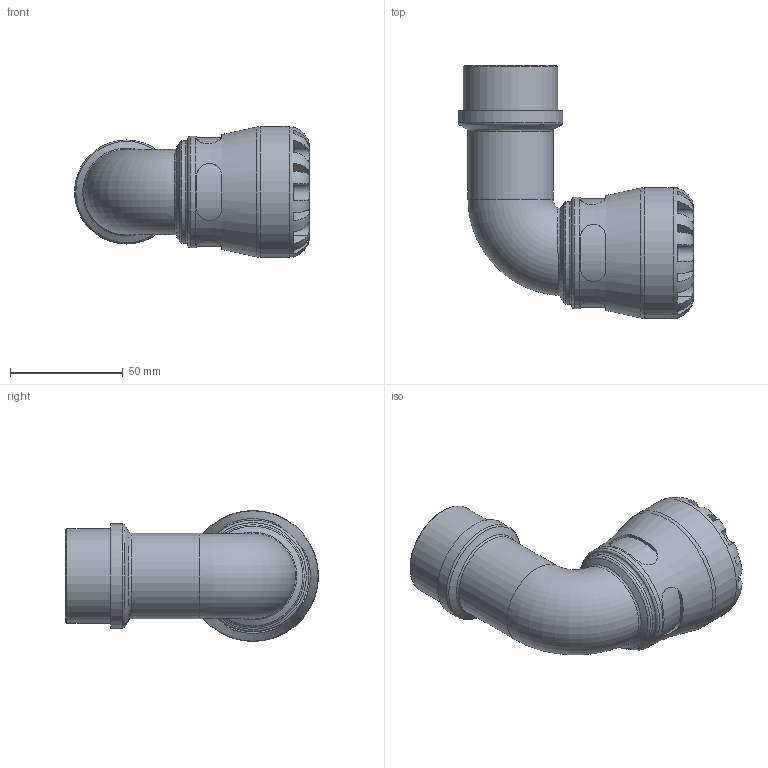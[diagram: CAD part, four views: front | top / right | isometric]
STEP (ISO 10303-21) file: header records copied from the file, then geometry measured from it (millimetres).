
FILE_DESCRIPTION(/* description */ ('PLASSON 90° ELBOW WITH MALE INTEGRAL BRASS 32X1.1/4" SERIES 1'),/* implementation_level */ '2;1');
FILE_NAME(/* name */ 'C:\Dropbox\KIMPROJECTS-Inventor\99-16-3568-Processing\1077\107700032013_197700032013.ipt.stp',/* time_stamp */ '2017-01-22T11:54:28+02:00',/* author */ ('KIM'),/* organization */ (''),/* preprocessor_version */ 'ST-DEVELOPER v15.6',/* originating_system */ 'Autodesk Inventor 2015',/* authorisation */ '');
FILE_SCHEMA (('AUTOMOTIVE_DESIGN { 1 0 10303 214 3 1 1 }'));
Length unit declared in the file: millimetre
Products named in the file (1): 107700032013_197700032013
Bounding box: 104.05 x 112 x 58 mm (x, y, z)
Volume: 130859.2 mm3; surface area: 40895.2 mm2
Topology: 1 solids, 1 shells, 112 faces, 275 edges, 170 vertices
Faces by surface type: plane 60, cylinder 37, torus 9, cone 3, bspline 3
Full cylindrical faces by diameter (mm): 29.337 x2, 32 x1, 37.719 x1, 41.91 x1, 45.24 x1, 46.101 x1, 49.3 x1, 58 x1
Entity records: 4391 total; most frequent: CARTESIAN_POINT 1815, DIRECTION 495, ORIENTED_EDGE 492, EDGE_CURVE 246, AXIS2_PLACEMENT_3D 207, VERTEX_POINT 163, EDGE_LOOP 141, STYLED_ITEM 113
